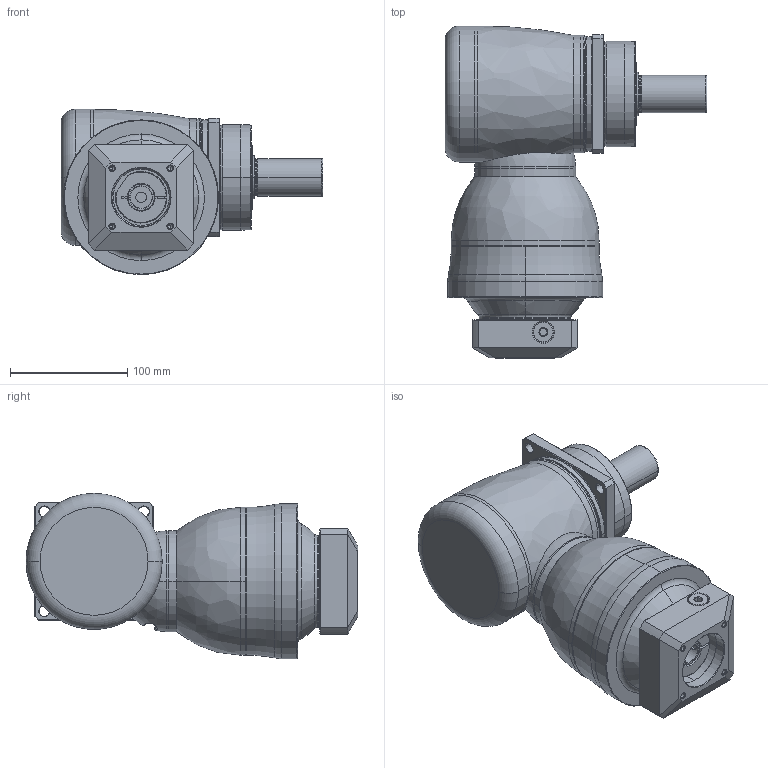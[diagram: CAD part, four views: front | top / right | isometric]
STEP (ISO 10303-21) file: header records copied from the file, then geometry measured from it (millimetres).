
FILE_DESCRIPTION((''),'2;1');
FILE_NAME('KF100_2ST_19-P0409400101_ASM','2016-06-30T',('d01943'),(''),'PRO/ENGINEER BY PARAMETRIC TECHNOLOGY CORPORATION, 2008410','PRO/ENGINEER BY PARAMETRIC TECHNOLOGY CORPORATION, 2008410','');
FILE_SCHEMA(('CONFIG_CONTROL_DESIGN'));
Length unit declared in the file: millimetre
Products named in the file (11): P1008400002; P1804400001; P0915400001; P1315400001; P1007400001; P1317400101; P0409400101; P0503400006; P0912302001; 21711412017; KF100_2ST_19-P0409400101_ASM
Assembly tree (10 placements, depth 2):
  KF100_2ST_19-P0409400101_ASM
    P1008400002
    P1804400001
    P0915400001
    P1315400001
    P1007400001
    P1317400101
    P0409400101
    P0503400006
    P0912302001
    21711412017
Bounding box: 223.3 x 283 x 141 mm (x, y, z)
Volume: 2439712.1 mm3; surface area: 313853.2 mm2
Topology: 11 solids, 11 shells, 467 faces, 1034 edges, 609 vertices
Faces by surface type: cylinder 148, cone 116, plane 97, torus 66, bspline 38, sphere 2
Entity records: 18498 total; most frequent: CARTESIAN_POINT 8025, DIRECTION 2296, ORIENTED_EDGE 2032, EDGE_CURVE 1016, AXIS2_PLACEMENT_3D 978, VERTEX_POINT 609, EDGE_LOOP 531, CIRCLE 528
